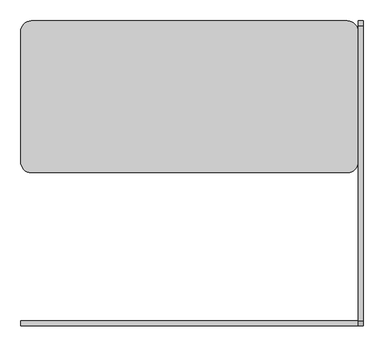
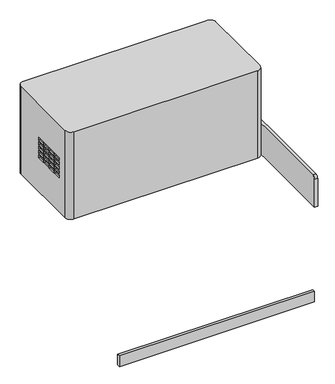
"""IFC4 building model written with IfcOpenShell, lengths in millimetres: proxy geometry, M3150 - Distribution System, Medication, Automatic : M3150 - Distribution System, Medication, Automatic."""

from ifc_helpers import new_model, si_unit, point, frame, frame_2d, origin, place, context, project, spatial, polyline, circle_curve, trimmed, segment, composite_curve, outline, extrude, source, transform, mapped, element, save
from ifc_brep_helpers import plane_surface, cylinder_surface, advanced_brep


def specialty_equipment_78158b01(model_context):
    return source(origin(), model_context, "Body", "SolidModel", [
        advanced_brep(
        [(381.0005698, 367.8671646, 1447.8), (-381.0, 367.8671646, 1447.8), (-406.4, 342.4671646, 1447.8), (-406.4, 27.2138304, 1447.8), (-381.0, 1.8138304, 1447.8), (381.0005698, 1.8138304, 1447.8), (406.4005698, 27.2138304, 1447.8), (406.4005698, 342.4671646, 1447.8), (381.0005698, 367.8671646, 1063.6005557), (406.4005698, 342.4671646, 1063.6005557), (406.4005698, 27.2138304, 1063.6005557), (381.0005698, 1.8138304, 1063.6005557), (-381.0, 1.8138304, 1063.6005557), (-406.4, 27.2138304, 1063.6005557), (-406.4, 342.4671646, 1063.6005557), (-381.0, 367.8671646, 1063.6005557), (-406.4, 99.4213832, 1302.7417631), (-406.4, 67.6713832, 1302.7417631), (-406.4, 67.6713832, 1290.0417631), (-406.4, 99.4213832, 1290.0417631), (-406.4, 99.4213832, 1283.6917631), (-406.4, 67.6713832, 1283.6917631), (-406.4, 67.6713832, 1270.9917631), (-406.4, 99.4213832, 1270.9917631), (-406.4, 137.5213832, 1283.6917631), (-406.4, 105.7713832, 1283.6917631), (-406.4, 105.7713832, 1270.9917631), (-406.4, 137.5213832, 1270.9917631), (-406.4, 175.6213832, 1283.6917631), (-406.4, 143.8713832, 1283.6917631), (-406.4, 143.8713832, 1270.9917631), (-406.4, 175.6213832, 1270.9917631), (-406.4, 213.7213832, 1283.6917631), (-406.4, 181.9713832, 1283.6917631), (-406.4, 181.9713832, 1270.9917631), (-406.4, 213.7213832, 1270.9917631), (-406.4, 137.5213832, 1302.7417631), (-406.4, 105.7713832, 1302.7417631), (-406.4, 105.7713832, 1290.0417631), (-406.4, 137.5213832, 1290.0417631), (-406.4, 175.6213832, 1302.7417631), (-406.4, 143.8713832, 1302.7417631), (-406.4, 143.8713832, 1290.0417631), (-406.4, 175.6213832, 1290.0417631), (-406.4, 213.7213832, 1302.7417631), (-406.4, 181.9713832, 1302.7417631), (-406.4, 181.9713832, 1290.0417631), (-406.4, 213.7213832, 1290.0417631), (-406.4, 99.4213832, 1264.6417631), (-406.4, 67.6713832, 1264.6417631), (-406.4, 67.6713832, 1251.9417631), (-406.4, 99.4213832, 1251.9417631), (-406.4, 99.4213832, 1245.5917631), (-406.4, 67.6713832, 1245.5917631), (-406.4, 67.6713832, 1232.8917631), (-406.4, 99.4213832, 1232.8917631), (-406.4, 137.5213832, 1245.5917631), (-406.4, 105.7713832, 1245.5917631), (-406.4, 105.7713832, 1232.8917631), (-406.4, 137.5213832, 1232.8917631), (-406.4, 175.6213832, 1245.5917631), (-406.4, 143.8713832, 1245.5917631), (-406.4, 143.8713832, 1232.8917631), (-406.4, 175.6213832, 1232.8917631), (-406.4, 213.7213832, 1245.5917631), (-406.4, 181.9713832, 1245.5917631), (-406.4, 181.9713832, 1232.8917631), (-406.4, 213.7213832, 1232.8917631), (-406.4, 137.5213832, 1264.6417631), (-406.4, 105.7713832, 1264.6417631), (-406.4, 105.7713832, 1251.9417631), (-406.4, 137.5213832, 1251.9417631), (-406.4, 175.6213832, 1264.6417631), (-406.4, 143.8713832, 1264.6417631), (-406.4, 143.8713832, 1251.9417631), (-406.4, 175.6213832, 1251.9417631), (-406.4, 213.7213832, 1264.6417631), (-406.4, 181.9713832, 1264.6417631), (-406.4, 181.9713832, 1251.9417631), (-406.4, 213.7213832, 1251.9417631), (-406.4, 99.4213832, 1226.5417631), (-406.4, 67.6713832, 1226.5417631), (-406.4, 67.6713832, 1213.8417631), (-406.4, 99.4213832, 1213.8417631), (-406.4, 137.5213832, 1226.5417631), (-406.4, 105.7713832, 1226.5417631), (-406.4, 105.7713832, 1213.8417631), (-406.4, 137.5213832, 1213.8417631), (-406.4, 175.6213832, 1226.5417631), (-406.4, 143.8713832, 1226.5417631), (-406.4, 143.8713832, 1213.8417631), (-406.4, 175.6213832, 1213.8417631), (-406.4, 213.7213832, 1226.5417631), (-406.4, 181.9713832, 1226.5417631), (-406.4, 181.9713832, 1213.8417631), (-406.4, 213.7213832, 1213.8417631), (406.4005698, 67.6713832, 1302.7417631), (406.4005698, 99.4213832, 1302.7417631), (406.4005698, 99.4213832, 1290.0417631), (406.4005698, 67.6713832, 1290.0417631), (406.4005698, 67.6713832, 1283.6917631), (406.4005698, 99.4213832, 1283.6917631), (406.4005698, 99.4213832, 1270.9917631), (406.4005698, 67.6713832, 1270.9917631), (406.4005698, 105.7713832, 1283.6917631), (406.4005698, 137.5213832, 1283.6917631), (406.4005698, 137.5213832, 1270.9917631), (406.4005698, 105.7713832, 1270.9917631), (406.4005698, 143.8713832, 1283.6917631), (406.4005698, 175.6213832, 1283.6917631), (406.4005698, 175.6213832, 1270.9917631), (406.4005698, 143.8713832, 1270.9917631), (406.4005698, 181.9713832, 1283.6917631), (406.4005698, 213.7213832, 1283.6917631), (406.4005698, 213.7213832, 1270.9917631), (406.4005698, 181.9713832, 1270.9917631), (406.4005698, 105.7713832, 1302.7417631), (406.4005698, 137.5213832, 1302.7417631), (406.4005698, 137.5213832, 1290.0417631), (406.4005698, 105.7713832, 1290.0417631), (406.4005698, 143.8713832, 1302.7417631), (406.4005698, 175.6213832, 1302.7417631), (406.4005698, 175.6213832, 1290.0417631), (406.4005698, 143.8713832, 1290.0417631), (406.4005698, 181.9713832, 1302.7417631), (406.4005698, 213.7213832, 1302.7417631), (406.4005698, 213.7213832, 1290.0417631), (406.4005698, 181.9713832, 1290.0417631), (406.4005698, 67.6713832, 1264.6417631), (406.4005698, 99.4213832, 1264.6417631), (406.4005698, 99.4213832, 1251.9417631), (406.4005698, 67.6713832, 1251.9417631), (406.4005698, 67.6713832, 1245.5917631), (406.4005698, 99.4213832, 1245.5917631), (406.4005698, 99.4213832, 1232.8917631), (406.4005698, 67.6713832, 1232.8917631), (406.4005698, 105.7713832, 1245.5917631), (406.4005698, 137.5213832, 1245.5917631), (406.4005698, 137.5213832, 1232.8917631), (406.4005698, 105.7713832, 1232.8917631), (406.4005698, 143.8713832, 1245.5917631), (406.4005698, 175.6213832, 1245.5917631), (406.4005698, 175.6213832, 1232.8917631), (406.4005698, 143.8713832, 1232.8917631), (406.4005698, 181.9713832, 1245.5917631), (406.4005698, 213.7213832, 1245.5917631), (406.4005698, 213.7213832, 1232.8917631), (406.4005698, 181.9713832, 1232.8917631), (406.4005698, 105.7713832, 1264.6417631), (406.4005698, 137.5213832, 1264.6417631), (406.4005698, 137.5213832, 1251.9417631), (406.4005698, 105.7713832, 1251.9417631), (406.4005698, 143.8713832, 1264.6417631), (406.4005698, 175.6213832, 1264.6417631), (406.4005698, 175.6213832, 1251.9417631), (406.4005698, 143.8713832, 1251.9417631), (406.4005698, 181.9713832, 1264.6417631), (406.4005698, 213.7213832, 1264.6417631), (406.4005698, 213.7213832, 1251.9417631), (406.4005698, 181.9713832, 1251.9417631), (406.4005698, 67.6713832, 1226.5417631), (406.4005698, 99.4213832, 1226.5417631), (406.4005698, 99.4213832, 1213.8417631), (406.4005698, 67.6713832, 1213.8417631), (406.4005698, 105.7713832, 1226.5417631), (406.4005698, 137.5213832, 1226.5417631), (406.4005698, 137.5213832, 1213.8417631), (406.4005698, 105.7713832, 1213.8417631), (406.4005698, 143.8713832, 1226.5417631), (406.4005698, 175.6213832, 1226.5417631), (406.4005698, 175.6213832, 1213.8417631), (406.4005698, 143.8713832, 1213.8417631), (406.4005698, 181.9713832, 1226.5417631), (406.4005698, 213.7213832, 1226.5417631), (406.4005698, 213.7213832, 1213.8417631), (406.4005698, 181.9713832, 1213.8417631), (401.1254699, 99.4213832, 1302.7417631), (401.1254699, 67.6713832, 1302.7417631), (401.1254699, 67.6713832, 1290.0417631), (401.1254699, 99.4213832, 1290.0417631), (401.1254699, 99.4213832, 1283.6917631), (401.1254699, 67.6713832, 1283.6917631), (401.1254699, 67.6713832, 1270.9917631), (401.1254699, 99.4213832, 1270.9917631), (401.1254699, 137.5213832, 1283.6917631), (401.1254699, 105.7713832, 1283.6917631), (401.1254699, 105.7713832, 1270.9917631), (401.1254699, 137.5213832, 1270.9917631), (401.1254699, 175.6213832, 1283.6917631), (401.1254699, 143.8713832, 1283.6917631), (401.1254699, 143.8713832, 1270.9917631), (401.1254699, 175.6213832, 1270.9917631), (401.1254699, 213.7213832, 1283.6917631), (401.1254699, 181.9713832, 1283.6917631), (401.1254699, 181.9713832, 1270.9917631), (401.1254699, 213.7213832, 1270.9917631), (401.1254699, 137.5213832, 1302.7417631), (401.1254699, 105.7713832, 1302.7417631), (401.1254699, 105.7713832, 1290.0417631), (401.1254699, 137.5213832, 1290.0417631), (401.1254699, 175.6213832, 1302.7417631), (401.1254699, 143.8713832, 1302.7417631), (401.1254699, 143.8713832, 1290.0417631), (401.1254699, 175.6213832, 1290.0417631), (401.1254699, 213.7213832, 1302.7417631), (401.1254699, 181.9713832, 1302.7417631), (401.1254699, 181.9713832, 1290.0417631), (401.1254699, 213.7213832, 1290.0417631), (401.1254699, 99.4213832, 1264.6417631), (401.1254699, 67.6713832, 1264.6417631), (401.1254699, 67.6713832, 1251.9417631), (401.1254699, 99.4213832, 1251.9417631), (401.1254699, 99.4213832, 1245.5917631), (401.1254699, 67.6713832, 1245.5917631), (401.1254699, 67.6713832, 1232.8917631), (401.1254699, 99.4213832, 1232.8917631), (401.1254699, 137.5213832, 1245.5917631), (401.1254699, 105.7713832, 1245.5917631), (401.1254699, 105.7713832, 1232.8917631), (401.1254699, 137.5213832, 1232.8917631), (401.1254699, 175.6213832, 1245.5917631), (401.1254699, 143.8713832, 1245.5917631), (401.1254699, 143.8713832, 1232.8917631), (401.1254699, 175.6213832, 1232.8917631), (401.1254699, 213.7213832, 1245.5917631), (401.1254699, 181.9713832, 1245.5917631), (401.1254699, 181.9713832, 1232.8917631), (401.1254699, 213.7213832, 1232.8917631), (401.1254699, 137.5213832, 1264.6417631), (401.1254699, 105.7713832, 1264.6417631), (401.1254699, 105.7713832, 1251.9417631), (401.1254699, 137.5213832, 1251.9417631), (401.1254699, 175.6213832, 1264.6417631), (401.1254699, 143.8713832, 1264.6417631), (401.1254699, 143.8713832, 1251.9417631), (401.1254699, 175.6213832, 1251.9417631), (401.1254699, 213.7213832, 1264.6417631), (401.1254699, 181.9713832, 1264.6417631), (401.1254699, 181.9713832, 1251.9417631), (401.1254699, 213.7213832, 1251.9417631), (401.1254699, 99.4213832, 1226.5417631), (401.1254699, 67.6713832, 1226.5417631), (401.1254699, 67.6713832, 1213.8417631), (401.1254699, 99.4213832, 1213.8417631), (401.1254699, 137.5213832, 1226.5417631), (401.1254699, 105.7713832, 1226.5417631), (401.1254699, 105.7713832, 1213.8417631), (401.1254699, 137.5213832, 1213.8417631), (401.1254699, 175.6213832, 1226.5417631), (401.1254699, 143.8713832, 1226.5417631), (401.1254699, 143.8713832, 1213.8417631), (401.1254699, 175.6213832, 1213.8417631), (401.1254699, 213.7213832, 1226.5417631), (401.1254699, 181.9713832, 1226.5417631), (401.1254699, 181.9713832, 1213.8417631), (401.1254699, 213.7213832, 1213.8417631), (-401.1249392, 99.4213832, 1302.7417631), (-401.1249392, 99.4213832, 1290.0417631), (-401.1249392, 67.6713832, 1290.0417631), (-401.1249392, 67.6713832, 1302.7417631), (-401.1249392, 99.4213832, 1283.6917631), (-401.1249392, 99.4213832, 1270.9917631), (-401.1249392, 67.6713832, 1270.9917631), (-401.1249392, 67.6713832, 1283.6917631), (-401.1249392, 137.5213832, 1283.6917631), (-401.1249392, 137.5213832, 1270.9917631), (-401.1249392, 105.7713832, 1270.9917631), (-401.1249392, 105.7713832, 1283.6917631), (-401.1249392, 175.6213832, 1283.6917631), (-401.1249392, 175.6213832, 1270.9917631), (-401.1249392, 143.8713832, 1270.9917631), (-401.1249392, 143.8713832, 1283.6917631), (-401.1249392, 213.7213832, 1283.6917631), (-401.1249392, 213.7213832, 1270.9917631), (-401.1249392, 181.9713832, 1270.9917631), (-401.1249392, 181.9713832, 1283.6917631), (-401.1249392, 137.5213832, 1302.7417631), (-401.1249392, 137.5213832, 1290.0417631), (-401.1249392, 105.7713832, 1290.0417631), (-401.1249392, 105.7713832, 1302.7417631), (-401.1249392, 175.6213832, 1302.7417631), (-401.1249392, 175.6213832, 1290.0417631), (-401.1249392, 143.8713832, 1290.0417631), (-401.1249392, 143.8713832, 1302.7417631), (-401.1249392, 213.7213832, 1302.7417631), (-401.1249392, 213.7213832, 1290.0417631), (-401.1249392, 181.9713832, 1290.0417631), (-401.1249392, 181.9713832, 1302.7417631), (-401.1249392, 99.4213832, 1264.6417631), (-401.1249392, 99.4213832, 1251.9417631), (-401.1249392, 67.6713832, 1251.9417631), (-401.1249392, 67.6713832, 1264.6417631), (-401.1249392, 99.4213832, 1245.5917631), (-401.1249392, 99.4213832, 1232.8917631), (-401.1249392, 67.6713832, 1232.8917631), (-401.1249392, 67.6713832, 1245.5917631), (-401.1249392, 137.5213832, 1245.5917631), (-401.1249392, 137.5213832, 1232.8917631), (-401.1249392, 105.7713832, 1232.8917631), (-401.1249392, 105.7713832, 1245.5917631), (-401.1249392, 175.6213832, 1245.5917631), (-401.1249392, 175.6213832, 1232.8917631), (-401.1249392, 143.8713832, 1232.8917631), (-401.1249392, 143.8713832, 1245.5917631), (-401.1249392, 213.7213832, 1245.5917631), (-401.1249392, 213.7213832, 1232.8917631), (-401.1249392, 181.9713832, 1232.8917631), (-401.1249392, 181.9713832, 1245.5917631), (-401.1249392, 137.5213832, 1264.6417631), (-401.1249392, 137.5213832, 1251.9417631), (-401.1249392, 105.7713832, 1251.9417631), (-401.1249392, 105.7713832, 1264.6417631), (-401.1249392, 175.6213832, 1264.6417631), (-401.1249392, 175.6213832, 1251.9417631), (-401.1249392, 143.8713832, 1251.9417631), (-401.1249392, 143.8713832, 1264.6417631), (-401.1249392, 213.7213832, 1264.6417631), (-401.1249392, 213.7213832, 1251.9417631), (-401.1249392, 181.9713832, 1251.9417631), (-401.1249392, 181.9713832, 1264.6417631), (-401.1249392, 99.4213832, 1226.5417631), (-401.1249392, 99.4213832, 1213.8417631), (-401.1249392, 67.6713832, 1213.8417631), (-401.1249392, 67.6713832, 1226.5417631), (-401.1249392, 137.5213832, 1226.5417631), (-401.1249392, 137.5213832, 1213.8417631), (-401.1249392, 105.7713832, 1213.8417631), (-401.1249392, 105.7713832, 1226.5417631), (-401.1249392, 175.6213832, 1226.5417631), (-401.1249392, 175.6213832, 1213.8417631), (-401.1249392, 143.8713832, 1213.8417631), (-401.1249392, 143.8713832, 1226.5417631), (-401.1249392, 213.7213832, 1226.5417631), (-401.1249392, 213.7213832, 1213.8417631), (-401.1249392, 181.9713832, 1213.8417631), (-401.1249392, 181.9713832, 1226.5417631)],
        [
            (0, 1),
            (1, 2, circle_curve(frame((-381.0, 342.4671646, 1447.8), z_axis=(0.0, 0.0, 1.0), x_axis=(1.0, 0.0, 0.0)), 25.4)),
            (2, 3),
            (3, 4, circle_curve(frame((-381.0, 27.2138304, 1447.8), z_axis=(0.0, 0.0, 1.0), x_axis=(1.0, 0.0, 0.0)), 25.4)),
            (4, 5),
            (5, 6, circle_curve(frame((381.0005698, 27.2138304, 1447.8), z_axis=(0.0, 0.0, 1.0), x_axis=(1.0, 0.0, 0.0)), 25.4)),
            (6, 7),
            (7, 0, circle_curve(frame((381.0005698, 342.4671646, 1447.8), z_axis=(0.0, 0.0, 1.0), x_axis=(1.0, 0.0, 0.0)), 25.4)),
            (8, 9, circle_curve(frame((381.0005698, 342.4671646, 1063.6005557), z_axis=(0.0, 0.0, -1.0), x_axis=(1.0, 0.0, 0.0)), 25.4)),
            (9, 10),
            (10, 11, circle_curve(frame((381.0005698, 27.2138304, 1063.6005557), z_axis=(0.0, 0.0, -1.0), x_axis=(1.0, 0.0, 0.0)), 25.4)),
            (11, 12),
            (12, 13, circle_curve(frame((-381.0, 27.2138304, 1063.6005557), z_axis=(0.0, 0.0, -1.0), x_axis=(1.0, 0.0, 0.0)), 25.4)),
            (13, 14),
            (14, 15, circle_curve(frame((-381.0, 342.4671646, 1063.6005557), z_axis=(0.0, 0.0, -1.0), x_axis=(1.0, 0.0, 0.0)), 25.4)),
            (15, 8),
            (0, 8),
            (15, 1),
            (2, 14),
            (13, 3),
            (16, 17),
            (17, 18),
            (18, 19),
            (19, 16),
            (20, 21),
            (21, 22),
            (22, 23),
            (23, 20),
            (24, 25),
            (25, 26),
            (26, 27),
            (27, 24),
            (28, 29),
            (29, 30),
            (30, 31),
            (31, 28),
            (32, 33),
            (33, 34),
            (34, 35),
            (35, 32),
            (36, 37),
            (37, 38),
            (38, 39),
            (39, 36),
            (40, 41),
            (41, 42),
            (42, 43),
            (43, 40),
            (44, 45),
            (45, 46),
            (46, 47),
            (47, 44),
            (48, 49),
            (49, 50),
            (50, 51),
            (51, 48),
            (52, 53),
            (53, 54),
            (54, 55),
            (55, 52),
            (56, 57),
            (57, 58),
            (58, 59),
            (59, 56),
            (60, 61),
            (61, 62),
            (62, 63),
            (63, 60),
            (64, 65),
            (65, 66),
            (66, 67),
            (67, 64),
            (68, 69),
            (69, 70),
            (70, 71),
            (71, 68),
            (72, 73),
            (73, 74),
            (74, 75),
            (75, 72),
            (76, 77),
            (77, 78),
            (78, 79),
            (79, 76),
            (80, 81),
            (81, 82),
            (82, 83),
            (83, 80),
            (84, 85),
            (85, 86),
            (86, 87),
            (87, 84),
            (88, 89),
            (89, 90),
            (90, 91),
            (91, 88),
            (92, 93),
            (93, 94),
            (94, 95),
            (95, 92),
            (4, 12),
            (11, 5),
            (6, 10),
            (9, 7),
            (96, 97),
            (97, 98),
            (98, 99),
            (99, 96),
            (100, 101),
            (101, 102),
            (102, 103),
            (103, 100),
            (104, 105),
            (105, 106),
            (106, 107),
            (107, 104),
            (108, 109),
            (109, 110),
            (110, 111),
            (111, 108),
            (112, 113),
            (113, 114),
            (114, 115),
            (115, 112),
            (116, 117),
            (117, 118),
            (118, 119),
            (119, 116),
            (120, 121),
            (121, 122),
            (122, 123),
            (123, 120),
            (124, 125),
            (125, 126),
            (126, 127),
            (127, 124),
            (128, 129),
            (129, 130),
            (130, 131),
            (131, 128),
            (132, 133),
            (133, 134),
            (134, 135),
            (135, 132),
            (136, 137),
            (137, 138),
            (138, 139),
            (139, 136),
            (140, 141),
            (141, 142),
            (142, 143),
            (143, 140),
            (144, 145),
            (145, 146),
            (146, 147),
            (147, 144),
            (148, 149),
            (149, 150),
            (150, 151),
            (151, 148),
            (152, 153),
            (153, 154),
            (154, 155),
            (155, 152),
            (156, 157),
            (157, 158),
            (158, 159),
            (159, 156),
            (160, 161),
            (161, 162),
            (162, 163),
            (163, 160),
            (164, 165),
            (165, 166),
            (166, 167),
            (167, 164),
            (168, 169),
            (169, 170),
            (170, 171),
            (171, 168),
            (172, 173),
            (173, 174),
            (174, 175),
            (175, 172),
            (176, 177),
            (177, 178),
            (178, 179),
            (179, 176),
            (180, 181),
            (181, 182),
            (182, 183),
            (183, 180),
            (184, 185),
            (185, 186),
            (186, 187),
            (187, 184),
            (188, 189),
            (189, 190),
            (190, 191),
            (191, 188),
            (192, 193),
            (193, 194),
            (194, 195),
            (195, 192),
            (196, 197),
            (197, 198),
            (198, 199),
            (199, 196),
            (200, 201),
            (201, 202),
            (202, 203),
            (203, 200),
            (204, 205),
            (205, 206),
            (206, 207),
            (207, 204),
            (208, 209),
            (209, 210),
            (210, 211),
            (211, 208),
            (212, 213),
            (213, 214),
            (214, 215),
            (215, 212),
            (216, 217),
            (217, 218),
            (218, 219),
            (219, 216),
            (220, 221),
            (221, 222),
            (222, 223),
            (223, 220),
            (224, 225),
            (225, 226),
            (226, 227),
            (227, 224),
            (228, 229),
            (229, 230),
            (230, 231),
            (231, 228),
            (232, 233),
            (233, 234),
            (234, 235),
            (235, 232),
            (236, 237),
            (237, 238),
            (238, 239),
            (239, 236),
            (240, 241),
            (241, 242),
            (242, 243),
            (243, 240),
            (244, 245),
            (245, 246),
            (246, 247),
            (247, 244),
            (248, 249),
            (249, 250),
            (250, 251),
            (251, 248),
            (252, 253),
            (253, 254),
            (254, 255),
            (255, 252),
            (176, 97),
            (96, 177),
            (99, 178),
            (98, 179),
            (180, 101),
            (100, 181),
            (103, 182),
            (102, 183),
            (184, 105),
            (104, 185),
            (107, 186),
            (106, 187),
            (188, 109),
            (108, 189),
            (111, 190),
            (110, 191),
            (192, 113),
            (112, 193),
            (115, 194),
            (114, 195),
            (196, 117),
            (116, 197),
            (119, 198),
            (118, 199),
            (200, 121),
            (120, 201),
            (123, 202),
            (122, 203),
            (204, 125),
            (124, 205),
            (127, 206),
            (126, 207),
            (208, 129),
            (128, 209),
            (131, 210),
            (130, 211),
            (212, 133),
            (132, 213),
            (135, 214),
            (134, 215),
            (216, 137),
            (136, 217),
            (139, 218),
            (138, 219),
            (220, 141),
            (140, 221),
            (143, 222),
            (142, 223),
            (224, 145),
            (144, 225),
            (147, 226),
            (146, 227),
            (228, 149),
            (148, 229),
            (151, 230),
            (150, 231),
            (232, 153),
            (152, 233),
            (155, 234),
            (154, 235),
            (236, 157),
            (156, 237),
            (159, 238),
            (158, 239),
            (240, 161),
            (160, 241),
            (163, 242),
            (162, 243),
            (244, 165),
            (164, 245),
            (167, 246),
            (166, 247),
            (248, 169),
            (168, 249),
            (171, 250),
            (170, 251),
            (252, 173),
            (172, 253),
            (175, 254),
            (174, 255),
            (256, 257),
            (257, 258),
            (258, 259),
            (259, 256),
            (260, 261),
            (261, 262),
            (262, 263),
            (263, 260),
            (264, 265),
            (265, 266),
            (266, 267),
            (267, 264),
            (268, 269),
            (269, 270),
            (270, 271),
            (271, 268),
            (272, 273),
            (273, 274),
            (274, 275),
            (275, 272),
            (276, 277),
            (277, 278),
            (278, 279),
            (279, 276),
            (280, 281),
            (281, 282),
            (282, 283),
            (283, 280),
            (284, 285),
            (285, 286),
            (286, 287),
            (287, 284),
            (288, 289),
            (289, 290),
            (290, 291),
            (291, 288),
            (292, 293),
            (293, 294),
            (294, 295),
            (295, 292),
            (296, 297),
            (297, 298),
            (298, 299),
            (299, 296),
            (300, 301),
            (301, 302),
            (302, 303),
            (303, 300),
            (304, 305),
            (305, 306),
            (306, 307),
            (307, 304),
            (308, 309),
            (309, 310),
            (310, 311),
            (311, 308),
            (312, 313),
            (313, 314),
            (314, 315),
            (315, 312),
            (316, 317),
            (317, 318),
            (318, 319),
            (319, 316),
            (320, 321),
            (321, 322),
            (322, 323),
            (323, 320),
            (324, 325),
            (325, 326),
            (326, 327),
            (327, 324),
            (328, 329),
            (329, 330),
            (330, 331),
            (331, 328),
            (332, 333),
            (333, 334),
            (334, 335),
            (335, 332),
            (259, 17),
            (16, 256),
            (258, 18),
            (257, 19),
            (263, 21),
            (20, 260),
            (262, 22),
            (261, 23),
            (267, 25),
            (24, 264),
            (266, 26),
            (265, 27),
            (271, 29),
            (28, 268),
            (270, 30),
            (269, 31),
            (275, 33),
            (32, 272),
            (274, 34),
            (273, 35),
            (279, 37),
            (36, 276),
            (278, 38),
            (277, 39),
            (283, 41),
            (40, 280),
            (282, 42),
            (281, 43),
            (287, 45),
            (44, 284),
            (286, 46),
            (285, 47),
            (291, 49),
            (48, 288),
            (290, 50),
            (289, 51),
            (295, 53),
            (52, 292),
            (294, 54),
            (293, 55),
            (299, 57),
            (56, 296),
            (298, 58),
            (297, 59),
            (303, 61),
            (60, 300),
            (302, 62),
            (301, 63),
            (307, 65),
            (64, 304),
            (306, 66),
            (305, 67),
            (311, 69),
            (68, 308),
            (310, 70),
            (309, 71),
            (315, 73),
            (72, 312),
            (314, 74),
            (313, 75),
            (319, 77),
            (76, 316),
            (318, 78),
            (317, 79),
            (323, 81),
            (80, 320),
            (322, 82),
            (321, 83),
            (327, 85),
            (84, 324),
            (326, 86),
            (325, 87),
            (331, 89),
            (88, 328),
            (330, 90),
            (329, 91),
            (335, 93),
            (92, 332),
            (334, 94),
            (333, 95),
        ],
        [
            plane_surface(frame((-419.1, 367.8671646, 1447.8), z_axis=(0.0, 0.0, 1.0), x_axis=(-1.0, 0.0, 0.0))),
            plane_surface(frame((-419.1, 367.8671646, 1063.6005557), z_axis=(0.0, 0.0, -1.0), x_axis=(1.0, 0.0, 0.0))),
            plane_surface(frame((381.0005698, 367.8671646, 1447.8), z_axis=(0.0, 1.0, 0.0), x_axis=(0.0, 0.0, -1.0))),
            plane_surface(frame((-406.4, 342.4671646, 1447.8), z_axis=(-1.0, 0.0, 0.0), x_axis=(0.0, 0.0, -1.0))),
            plane_surface(frame((-381.0, 1.8138304, 1447.8), z_axis=(0.0, -1.0, 0.0), x_axis=(0.0, 0.0, -1.0))),
            plane_surface(frame((406.4005698, 27.2138304, 1447.8), z_axis=(1.0, 0.0, 0.0), x_axis=(0.0, 0.0, -1.0))),
            cylinder_surface(frame((-381.0, 342.4671646, 1063.6005557), z_axis=(0.0, 0.0, 1.0), x_axis=(1.0, 0.0, 0.0)), 25.4),
            cylinder_surface(frame((-381.0, 27.2138304, 1063.6005557), z_axis=(0.0, 0.0, 1.0), x_axis=(1.0, 0.0, 0.0)), 25.4),
            cylinder_surface(frame((381.0005698, 27.2138304, 1063.6005557), z_axis=(0.0, 0.0, 1.0), x_axis=(1.0, 0.0, 0.0)), 25.4),
            cylinder_surface(frame((381.0005698, 342.4671646, 1063.6005557), z_axis=(0.0, 0.0, 1.0), x_axis=(1.0, 0.0, 0.0)), 25.4),
            plane_surface(frame((401.1254699, 67.6713832, 1302.7417631), z_axis=(1.0, 0.0, 0.0), x_axis=(0.0, 1.0, 0.0))),
            plane_surface(frame((412.0928568, 99.4213832, 1302.7417631), z_axis=(0.0, 0.0, -1.0), x_axis=(-1.0, 0.0, 0.0))),
            plane_surface(frame((412.0928568, 67.6713832, 1302.7417631), z_axis=(0.0, 1.0, 0.0), x_axis=(-1.0, 0.0, 0.0))),
            plane_surface(frame((412.0928568, 67.6713832, 1290.0417631), z_axis=(0.0, 0.0, 1.0), x_axis=(-1.0, 0.0, 0.0))),
            plane_surface(frame((412.0928568, 99.4213832, 1290.0417631), z_axis=(0.0, -1.0, 0.0), x_axis=(-1.0, 0.0, 0.0))),
            plane_surface(frame((412.0928568, 99.4213832, 1283.6917631), z_axis=(0.0, 0.0, -1.0), x_axis=(-1.0, 0.0, 0.0))),
            plane_surface(frame((412.0928568, 67.6713832, 1283.6917631), z_axis=(0.0, 1.0, 0.0), x_axis=(-1.0, 0.0, 0.0))),
            plane_surface(frame((412.0928568, 67.6713832, 1270.9917631), z_axis=(0.0, 0.0, 1.0), x_axis=(-1.0, 0.0, 0.0))),
            plane_surface(frame((412.0928568, 99.4213832, 1270.9917631), z_axis=(0.0, -1.0, 0.0), x_axis=(-1.0, 0.0, 0.0))),
            plane_surface(frame((412.0928568, 137.5213832, 1283.6917631), z_axis=(0.0, 0.0, -1.0), x_axis=(-1.0, 0.0, 0.0))),
            plane_surface(frame((412.0928568, 105.7713832, 1283.6917631), z_axis=(0.0, 1.0, 0.0), x_axis=(-1.0, 0.0, 0.0))),
            plane_surface(frame((412.0928568, 105.7713832, 1270.9917631), z_axis=(0.0, 0.0, 1.0), x_axis=(-1.0, 0.0, 0.0))),
            plane_surface(frame((412.0928568, 137.5213832, 1270.9917631), z_axis=(0.0, -1.0, 0.0), x_axis=(-1.0, 0.0, 0.0))),
            plane_surface(frame((412.0928568, 175.6213832, 1283.6917631), z_axis=(0.0, 0.0, -1.0), x_axis=(-1.0, 0.0, 0.0))),
            plane_surface(frame((412.0928568, 143.8713832, 1283.6917631), z_axis=(0.0, 1.0, 0.0), x_axis=(-1.0, 0.0, 0.0))),
            plane_surface(frame((412.0928568, 143.8713832, 1270.9917631), z_axis=(0.0, 0.0, 1.0), x_axis=(-1.0, 0.0, 0.0))),
            plane_surface(frame((412.0928568, 175.6213832, 1270.9917631), z_axis=(0.0, -1.0, 0.0), x_axis=(-1.0, 0.0, 0.0))),
            plane_surface(frame((412.0928568, 213.7213832, 1283.6917631), z_axis=(0.0, 0.0, -1.0), x_axis=(-1.0, 0.0, 0.0))),
            plane_surface(frame((412.0928568, 181.9713832, 1283.6917631), z_axis=(0.0, 1.0, 0.0), x_axis=(-1.0, 0.0, 0.0))),
            plane_surface(frame((412.0928568, 181.9713832, 1270.9917631), z_axis=(0.0, 0.0, 1.0), x_axis=(-1.0, 0.0, 0.0))),
            plane_surface(frame((412.0928568, 213.7213832, 1270.9917631), z_axis=(0.0, -1.0, 0.0), x_axis=(-1.0, 0.0, 0.0))),
            plane_surface(frame((412.0928568, 137.5213832, 1302.7417631), z_axis=(0.0, 0.0, -1.0), x_axis=(-1.0, 0.0, 0.0))),
            plane_surface(frame((412.0928568, 105.7713832, 1302.7417631), z_axis=(0.0, 1.0, 0.0), x_axis=(-1.0, 0.0, 0.0))),
            plane_surface(frame((412.0928568, 105.7713832, 1290.0417631), z_axis=(0.0, 0.0, 1.0), x_axis=(-1.0, 0.0, 0.0))),
            plane_surface(frame((412.0928568, 137.5213832, 1290.0417631), z_axis=(0.0, -1.0, 0.0), x_axis=(-1.0, 0.0, 0.0))),
            plane_surface(frame((412.0928568, 175.6213832, 1302.7417631), z_axis=(0.0, 0.0, -1.0), x_axis=(-1.0, 0.0, 0.0))),
            plane_surface(frame((412.0928568, 143.8713832, 1302.7417631), z_axis=(0.0, 1.0, 0.0), x_axis=(-1.0, 0.0, 0.0))),
            plane_surface(frame((412.0928568, 143.8713832, 1290.0417631), z_axis=(0.0, 0.0, 1.0), x_axis=(-1.0, 0.0, 0.0))),
            plane_surface(frame((412.0928568, 175.6213832, 1290.0417631), z_axis=(0.0, -1.0, 0.0), x_axis=(-1.0, 0.0, 0.0))),
            plane_surface(frame((412.0928568, 213.7213832, 1302.7417631), z_axis=(0.0, 0.0, -1.0), x_axis=(-1.0, 0.0, 0.0))),
            plane_surface(frame((412.0928568, 181.9713832, 1302.7417631), z_axis=(0.0, 1.0, 0.0), x_axis=(-1.0, 0.0, 0.0))),
            plane_surface(frame((412.0928568, 181.9713832, 1290.0417631), z_axis=(0.0, 0.0, 1.0), x_axis=(-1.0, 0.0, 0.0))),
            plane_surface(frame((412.0928568, 213.7213832, 1290.0417631), z_axis=(0.0, -1.0, 0.0), x_axis=(-1.0, 0.0, 0.0))),
            plane_surface(frame((412.0928568, 99.4213832, 1264.6417631), z_axis=(0.0, 0.0, -1.0), x_axis=(-1.0, 0.0, 0.0))),
            plane_surface(frame((412.0928568, 67.6713832, 1264.6417631), z_axis=(0.0, 1.0, 0.0), x_axis=(-1.0, 0.0, 0.0))),
            plane_surface(frame((412.0928568, 67.6713832, 1251.9417631), z_axis=(0.0, 0.0, 1.0), x_axis=(-1.0, 0.0, 0.0))),
            plane_surface(frame((412.0928568, 99.4213832, 1251.9417631), z_axis=(0.0, -1.0, 0.0), x_axis=(-1.0, 0.0, 0.0))),
            plane_surface(frame((412.0928568, 99.4213832, 1245.5917631), z_axis=(0.0, 0.0, -1.0), x_axis=(-1.0, 0.0, 0.0))),
            plane_surface(frame((412.0928568, 67.6713832, 1245.5917631), z_axis=(0.0, 1.0, 0.0), x_axis=(-1.0, 0.0, 0.0))),
            plane_surface(frame((412.0928568, 67.6713832, 1232.8917631), z_axis=(0.0, 0.0, 1.0), x_axis=(-1.0, 0.0, 0.0))),
            plane_surface(frame((412.0928568, 99.4213832, 1232.8917631), z_axis=(0.0, -1.0, 0.0), x_axis=(-1.0, 0.0, 0.0))),
            plane_surface(frame((412.0928568, 137.5213832, 1245.5917631), z_axis=(0.0, 0.0, -1.0), x_axis=(-1.0, 0.0, 0.0))),
            plane_surface(frame((412.0928568, 105.7713832, 1245.5917631), z_axis=(0.0, 1.0, 0.0), x_axis=(-1.0, 0.0, 0.0))),
            plane_surface(frame((412.0928568, 105.7713832, 1232.8917631), z_axis=(0.0, 0.0, 1.0), x_axis=(-1.0, 0.0, 0.0))),
            plane_surface(frame((412.0928568, 137.5213832, 1232.8917631), z_axis=(0.0, -1.0, 0.0), x_axis=(-1.0, 0.0, 0.0))),
            plane_surface(frame((412.0928568, 175.6213832, 1245.5917631), z_axis=(0.0, 0.0, -1.0), x_axis=(-1.0, 0.0, 0.0))),
            plane_surface(frame((412.0928568, 143.8713832, 1245.5917631), z_axis=(0.0, 1.0, 0.0), x_axis=(-1.0, 0.0, 0.0))),
            plane_surface(frame((412.0928568, 143.8713832, 1232.8917631), z_axis=(0.0, 0.0, 1.0), x_axis=(-1.0, 0.0, 0.0))),
            plane_surface(frame((412.0928568, 175.6213832, 1232.8917631), z_axis=(0.0, -1.0, 0.0), x_axis=(-1.0, 0.0, 0.0))),
            plane_surface(frame((412.0928568, 213.7213832, 1245.5917631), z_axis=(0.0, 0.0, -1.0), x_axis=(-1.0, 0.0, 0.0))),
            plane_surface(frame((412.0928568, 181.9713832, 1245.5917631), z_axis=(0.0, 1.0, 0.0), x_axis=(-1.0, 0.0, 0.0))),
            plane_surface(frame((412.0928568, 181.9713832, 1232.8917631), z_axis=(0.0, 0.0, 1.0), x_axis=(-1.0, 0.0, 0.0))),
            plane_surface(frame((412.0928568, 213.7213832, 1232.8917631), z_axis=(0.0, -1.0, 0.0), x_axis=(-1.0, 0.0, 0.0))),
            plane_surface(frame((412.0928568, 137.5213832, 1264.6417631), z_axis=(0.0, 0.0, -1.0), x_axis=(-1.0, 0.0, 0.0))),
            plane_surface(frame((412.0928568, 105.7713832, 1264.6417631), z_axis=(0.0, 1.0, 0.0), x_axis=(-1.0, 0.0, 0.0))),
            plane_surface(frame((412.0928568, 105.7713832, 1251.9417631), z_axis=(0.0, 0.0, 1.0), x_axis=(-1.0, 0.0, 0.0))),
            plane_surface(frame((412.0928568, 137.5213832, 1251.9417631), z_axis=(0.0, -1.0, 0.0), x_axis=(-1.0, 0.0, 0.0))),
            plane_surface(frame((412.0928568, 175.6213832, 1264.6417631), z_axis=(0.0, 0.0, -1.0), x_axis=(-1.0, 0.0, 0.0))),
            plane_surface(frame((412.0928568, 143.8713832, 1264.6417631), z_axis=(0.0, 1.0, 0.0), x_axis=(-1.0, 0.0, 0.0))),
            plane_surface(frame((412.0928568, 143.8713832, 1251.9417631), z_axis=(0.0, 0.0, 1.0), x_axis=(-1.0, 0.0, 0.0))),
            plane_surface(frame((412.0928568, 175.6213832, 1251.9417631), z_axis=(0.0, -1.0, 0.0), x_axis=(-1.0, 0.0, 0.0))),
            plane_surface(frame((412.0928568, 213.7213832, 1264.6417631), z_axis=(0.0, 0.0, -1.0), x_axis=(-1.0, 0.0, 0.0))),
            plane_surface(frame((412.0928568, 181.9713832, 1264.6417631), z_axis=(0.0, 1.0, 0.0), x_axis=(-1.0, 0.0, 0.0))),
            plane_surface(frame((412.0928568, 181.9713832, 1251.9417631), z_axis=(0.0, 0.0, 1.0), x_axis=(-1.0, 0.0, 0.0))),
            plane_surface(frame((412.0928568, 213.7213832, 1251.9417631), z_axis=(0.0, -1.0, 0.0), x_axis=(-1.0, 0.0, 0.0))),
            plane_surface(frame((412.0928568, 99.4213832, 1226.5417631), z_axis=(0.0, 0.0, -1.0), x_axis=(-1.0, 0.0, 0.0))),
            plane_surface(frame((412.0928568, 67.6713832, 1226.5417631), z_axis=(0.0, 1.0, 0.0), x_axis=(-1.0, 0.0, 0.0))),
            plane_surface(frame((412.0928568, 67.6713832, 1213.8417631), z_axis=(0.0, 0.0, 1.0), x_axis=(-1.0, 0.0, 0.0))),
            plane_surface(frame((412.0928568, 99.4213832, 1213.8417631), z_axis=(0.0, -1.0, 0.0), x_axis=(-1.0, 0.0, 0.0))),
            plane_surface(frame((412.0928568, 137.5213832, 1226.5417631), z_axis=(0.0, 0.0, -1.0), x_axis=(-1.0, 0.0, 0.0))),
            plane_surface(frame((412.0928568, 105.7713832, 1226.5417631), z_axis=(0.0, 1.0, 0.0), x_axis=(-1.0, 0.0, 0.0))),
            plane_surface(frame((412.0928568, 105.7713832, 1213.8417631), z_axis=(0.0, 0.0, 1.0), x_axis=(-1.0, 0.0, 0.0))),
            plane_surface(frame((412.0928568, 137.5213832, 1213.8417631), z_axis=(0.0, -1.0, 0.0), x_axis=(-1.0, 0.0, 0.0))),
            plane_surface(frame((412.0928568, 175.6213832, 1226.5417631), z_axis=(0.0, 0.0, -1.0), x_axis=(-1.0, 0.0, 0.0))),
            plane_surface(frame((412.0928568, 143.8713832, 1226.5417631), z_axis=(0.0, 1.0, 0.0), x_axis=(-1.0, 0.0, 0.0))),
            plane_surface(frame((412.0928568, 143.8713832, 1213.8417631), z_axis=(0.0, 0.0, 1.0), x_axis=(-1.0, 0.0, 0.0))),
            plane_surface(frame((412.0928568, 175.6213832, 1213.8417631), z_axis=(0.0, -1.0, 0.0), x_axis=(-1.0, 0.0, 0.0))),
            plane_surface(frame((412.0928568, 213.7213832, 1226.5417631), z_axis=(0.0, 0.0, -1.0), x_axis=(-1.0, 0.0, 0.0))),
            plane_surface(frame((412.0928568, 181.9713832, 1226.5417631), z_axis=(0.0, 1.0, 0.0), x_axis=(-1.0, 0.0, 0.0))),
            plane_surface(frame((412.0928568, 181.9713832, 1213.8417631), z_axis=(0.0, 0.0, 1.0), x_axis=(-1.0, 0.0, 0.0))),
            plane_surface(frame((412.0928568, 213.7213832, 1213.8417631), z_axis=(0.0, -1.0, 0.0), x_axis=(-1.0, 0.0, 0.0))),
            plane_surface(frame((-401.1249392, 99.4213832, 1283.6917631), z_axis=(-1.0, 0.0, 0.0), x_axis=(0.0, 0.0, 1.0))),
            plane_surface(frame((-412.0923261, 67.6713832, 1302.7417631), z_axis=(0.0, 0.0, -1.0), x_axis=(1.0, 0.0, 0.0))),
            plane_surface(frame((-412.0923261, 67.6713832, 1290.0417631), z_axis=(0.0, 1.0, 0.0), x_axis=(1.0, 0.0, 0.0))),
            plane_surface(frame((-412.0923261, 99.4213832, 1290.0417631), z_axis=(0.0, 0.0, 1.0), x_axis=(1.0, 0.0, 0.0))),
            plane_surface(frame((-412.0923261, 99.4213832, 1302.7417631), z_axis=(0.0, -1.0, 0.0), x_axis=(1.0, 0.0, 0.0))),
            plane_surface(frame((-412.0923261, 67.6713832, 1283.6917631), z_axis=(0.0, 0.0, -1.0), x_axis=(1.0, 0.0, 0.0))),
            plane_surface(frame((-412.0923261, 67.6713832, 1270.9917631), z_axis=(0.0, 1.0, 0.0), x_axis=(1.0, 0.0, 0.0))),
            plane_surface(frame((-412.0923261, 99.4213832, 1270.9917631), z_axis=(0.0, 0.0, 1.0), x_axis=(1.0, 0.0, 0.0))),
            plane_surface(frame((-412.0923261, 99.4213832, 1283.6917631), z_axis=(0.0, -1.0, 0.0), x_axis=(1.0, 0.0, 0.0))),
            plane_surface(frame((-412.0923261, 105.7713832, 1283.6917631), z_axis=(0.0, 0.0, -1.0), x_axis=(1.0, 0.0, 0.0))),
            plane_surface(frame((-412.0923261, 105.7713832, 1270.9917631), z_axis=(0.0, 1.0, 0.0), x_axis=(1.0, 0.0, 0.0))),
            plane_surface(frame((-412.0923261, 137.5213832, 1270.9917631), z_axis=(0.0, 0.0, 1.0), x_axis=(1.0, 0.0, 0.0))),
            plane_surface(frame((-412.0923261, 137.5213832, 1283.6917631), z_axis=(0.0, -1.0, 0.0), x_axis=(1.0, 0.0, 0.0))),
            plane_surface(frame((-412.0923261, 143.8713832, 1283.6917631), z_axis=(0.0, 0.0, -1.0), x_axis=(1.0, 0.0, 0.0))),
            plane_surface(frame((-412.0923261, 143.8713832, 1270.9917631), z_axis=(0.0, 1.0, 0.0), x_axis=(1.0, 0.0, 0.0))),
            plane_surface(frame((-412.0923261, 175.6213832, 1270.9917631), z_axis=(0.0, 0.0, 1.0), x_axis=(1.0, 0.0, 0.0))),
            plane_surface(frame((-412.0923261, 175.6213832, 1283.6917631), z_axis=(0.0, -1.0, 0.0), x_axis=(1.0, 0.0, 0.0))),
            plane_surface(frame((-412.0923261, 181.9713832, 1283.6917631), z_axis=(0.0, 0.0, -1.0), x_axis=(1.0, 0.0, 0.0))),
            plane_surface(frame((-412.0923261, 181.9713832, 1270.9917631), z_axis=(0.0, 1.0, 0.0), x_axis=(1.0, 0.0, 0.0))),
            plane_surface(frame((-412.0923261, 213.7213832, 1270.9917631), z_axis=(0.0, 0.0, 1.0), x_axis=(1.0, 0.0, 0.0))),
            plane_surface(frame((-412.0923261, 213.7213832, 1283.6917631), z_axis=(0.0, -1.0, 0.0), x_axis=(1.0, 0.0, 0.0))),
            plane_surface(frame((-412.0923261, 105.7713832, 1302.7417631), z_axis=(0.0, 0.0, -1.0), x_axis=(1.0, 0.0, 0.0))),
            plane_surface(frame((-412.0923261, 105.7713832, 1290.0417631), z_axis=(0.0, 1.0, 0.0), x_axis=(1.0, 0.0, 0.0))),
            plane_surface(frame((-412.0923261, 137.5213832, 1290.0417631), z_axis=(0.0, 0.0, 1.0), x_axis=(1.0, 0.0, 0.0))),
            plane_surface(frame((-412.0923261, 137.5213832, 1302.7417631), z_axis=(0.0, -1.0, 0.0), x_axis=(1.0, 0.0, 0.0))),
            plane_surface(frame((-412.0923261, 143.8713832, 1302.7417631), z_axis=(0.0, 0.0, -1.0), x_axis=(1.0, 0.0, 0.0))),
            plane_surface(frame((-412.0923261, 143.8713832, 1290.0417631), z_axis=(0.0, 1.0, 0.0), x_axis=(1.0, 0.0, 0.0))),
            plane_surface(frame((-412.0923261, 175.6213832, 1290.0417631), z_axis=(0.0, 0.0, 1.0), x_axis=(1.0, 0.0, 0.0))),
            plane_surface(frame((-412.0923261, 175.6213832, 1302.7417631), z_axis=(0.0, -1.0, 0.0), x_axis=(1.0, 0.0, 0.0))),
            plane_surface(frame((-412.0923261, 181.9713832, 1302.7417631), z_axis=(0.0, 0.0, -1.0), x_axis=(1.0, 0.0, 0.0))),
            plane_surface(frame((-412.0923261, 181.9713832, 1290.0417631), z_axis=(0.0, 1.0, 0.0), x_axis=(1.0, 0.0, 0.0))),
            plane_surface(frame((-412.0923261, 213.7213832, 1290.0417631), z_axis=(0.0, 0.0, 1.0), x_axis=(1.0, 0.0, 0.0))),
            plane_surface(frame((-412.0923261, 213.7213832, 1302.7417631), z_axis=(0.0, -1.0, 0.0), x_axis=(1.0, 0.0, 0.0))),
            plane_surface(frame((-412.0923261, 67.6713832, 1264.6417631), z_axis=(0.0, 0.0, -1.0), x_axis=(1.0, 0.0, 0.0))),
            plane_surface(frame((-412.0923261, 67.6713832, 1251.9417631), z_axis=(0.0, 1.0, 0.0), x_axis=(1.0, 0.0, 0.0))),
            plane_surface(frame((-412.0923261, 99.4213832, 1251.9417631), z_axis=(0.0, 0.0, 1.0), x_axis=(1.0, 0.0, 0.0))),
            plane_surface(frame((-412.0923261, 99.4213832, 1264.6417631), z_axis=(0.0, -1.0, 0.0), x_axis=(1.0, 0.0, 0.0))),
            plane_surface(frame((-412.0923261, 67.6713832, 1245.5917631), z_axis=(0.0, 0.0, -1.0), x_axis=(1.0, 0.0, 0.0))),
            plane_surface(frame((-412.0923261, 67.6713832, 1232.8917631), z_axis=(0.0, 1.0, 0.0), x_axis=(1.0, 0.0, 0.0))),
            plane_surface(frame((-412.0923261, 99.4213832, 1232.8917631), z_axis=(0.0, 0.0, 1.0), x_axis=(1.0, 0.0, 0.0))),
            plane_surface(frame((-412.0923261, 99.4213832, 1245.5917631), z_axis=(0.0, -1.0, 0.0), x_axis=(1.0, 0.0, 0.0))),
            plane_surface(frame((-412.0923261, 105.7713832, 1245.5917631), z_axis=(0.0, 0.0, -1.0), x_axis=(1.0, 0.0, 0.0))),
            plane_surface(frame((-412.0923261, 105.7713832, 1232.8917631), z_axis=(0.0, 1.0, 0.0), x_axis=(1.0, 0.0, 0.0))),
            plane_surface(frame((-412.0923261, 137.5213832, 1232.8917631), z_axis=(0.0, 0.0, 1.0), x_axis=(1.0, 0.0, 0.0))),
            plane_surface(frame((-412.0923261, 137.5213832, 1245.5917631), z_axis=(0.0, -1.0, 0.0), x_axis=(1.0, 0.0, 0.0))),
            plane_surface(frame((-412.0923261, 143.8713832, 1245.5917631), z_axis=(0.0, 0.0, -1.0), x_axis=(1.0, 0.0, 0.0))),
            plane_surface(frame((-412.0923261, 143.8713832, 1232.8917631), z_axis=(0.0, 1.0, 0.0), x_axis=(1.0, 0.0, 0.0))),
            plane_surface(frame((-412.0923261, 175.6213832, 1232.8917631), z_axis=(0.0, 0.0, 1.0), x_axis=(1.0, 0.0, 0.0))),
            plane_surface(frame((-412.0923261, 175.6213832, 1245.5917631), z_axis=(0.0, -1.0, 0.0), x_axis=(1.0, 0.0, 0.0))),
            plane_surface(frame((-412.0923261, 181.9713832, 1245.5917631), z_axis=(0.0, 0.0, -1.0), x_axis=(1.0, 0.0, 0.0))),
            plane_surface(frame((-412.0923261, 181.9713832, 1232.8917631), z_axis=(0.0, 1.0, 0.0), x_axis=(1.0, 0.0, 0.0))),
            plane_surface(frame((-412.0923261, 213.7213832, 1232.8917631), z_axis=(0.0, 0.0, 1.0), x_axis=(1.0, 0.0, 0.0))),
            plane_surface(frame((-412.0923261, 213.7213832, 1245.5917631), z_axis=(0.0, -1.0, 0.0), x_axis=(1.0, 0.0, 0.0))),
            plane_surface(frame((-412.0923261, 105.7713832, 1264.6417631), z_axis=(0.0, 0.0, -1.0), x_axis=(1.0, 0.0, 0.0))),
            plane_surface(frame((-412.0923261, 105.7713832, 1251.9417631), z_axis=(0.0, 1.0, 0.0), x_axis=(1.0, 0.0, 0.0))),
            plane_surface(frame((-412.0923261, 137.5213832, 1251.9417631), z_axis=(0.0, 0.0, 1.0), x_axis=(1.0, 0.0, 0.0))),
            plane_surface(frame((-412.0923261, 137.5213832, 1264.6417631), z_axis=(0.0, -1.0, 0.0), x_axis=(1.0, 0.0, 0.0))),
            plane_surface(frame((-412.0923261, 143.8713832, 1264.6417631), z_axis=(0.0, 0.0, -1.0), x_axis=(1.0, 0.0, 0.0))),
            plane_surface(frame((-412.0923261, 143.8713832, 1251.9417631), z_axis=(0.0, 1.0, 0.0), x_axis=(1.0, 0.0, 0.0))),
            plane_surface(frame((-412.0923261, 175.6213832, 1251.9417631), z_axis=(0.0, 0.0, 1.0), x_axis=(1.0, 0.0, 0.0))),
            plane_surface(frame((-412.0923261, 175.6213832, 1264.6417631), z_axis=(0.0, -1.0, 0.0), x_axis=(1.0, 0.0, 0.0))),
            plane_surface(frame((-412.0923261, 181.9713832, 1264.6417631), z_axis=(0.0, 0.0, -1.0), x_axis=(1.0, 0.0, 0.0))),
            plane_surface(frame((-412.0923261, 181.9713832, 1251.9417631), z_axis=(0.0, 1.0, 0.0), x_axis=(1.0, 0.0, 0.0))),
            plane_surface(frame((-412.0923261, 213.7213832, 1251.9417631), z_axis=(0.0, 0.0, 1.0), x_axis=(1.0, 0.0, 0.0))),
            plane_surface(frame((-412.0923261, 213.7213832, 1264.6417631), z_axis=(0.0, -1.0, 0.0), x_axis=(1.0, 0.0, 0.0))),
            plane_surface(frame((-412.0923261, 67.6713832, 1226.5417631), z_axis=(0.0, 0.0, -1.0), x_axis=(1.0, 0.0, 0.0))),
            plane_surface(frame((-412.0923261, 67.6713832, 1213.8417631), z_axis=(0.0, 1.0, 0.0), x_axis=(1.0, 0.0, 0.0))),
            plane_surface(frame((-412.0923261, 99.4213832, 1213.8417631), z_axis=(0.0, 0.0, 1.0), x_axis=(1.0, 0.0, 0.0))),
            plane_surface(frame((-412.0923261, 99.4213832, 1226.5417631), z_axis=(0.0, -1.0, 0.0), x_axis=(1.0, 0.0, 0.0))),
            plane_surface(frame((-412.0923261, 105.7713832, 1226.5417631), z_axis=(0.0, 0.0, -1.0), x_axis=(1.0, 0.0, 0.0))),
            plane_surface(frame((-412.0923261, 105.7713832, 1213.8417631), z_axis=(0.0, 1.0, 0.0), x_axis=(1.0, 0.0, 0.0))),
            plane_surface(frame((-412.0923261, 137.5213832, 1213.8417631), z_axis=(0.0, 0.0, 1.0), x_axis=(1.0, 0.0, 0.0))),
            plane_surface(frame((-412.0923261, 137.5213832, 1226.5417631), z_axis=(0.0, -1.0, 0.0), x_axis=(1.0, 0.0, 0.0))),
            plane_surface(frame((-412.0923261, 143.8713832, 1226.5417631), z_axis=(0.0, 0.0, -1.0), x_axis=(1.0, 0.0, 0.0))),
            plane_surface(frame((-412.0923261, 143.8713832, 1213.8417631), z_axis=(0.0, 1.0, 0.0), x_axis=(1.0, 0.0, 0.0))),
            plane_surface(frame((-412.0923261, 175.6213832, 1213.8417631), z_axis=(0.0, 0.0, 1.0), x_axis=(1.0, 0.0, 0.0))),
            plane_surface(frame((-412.0923261, 175.6213832, 1226.5417631), z_axis=(0.0, -1.0, 0.0), x_axis=(1.0, 0.0, 0.0))),
            plane_surface(frame((-412.0923261, 181.9713832, 1226.5417631), z_axis=(0.0, 0.0, -1.0), x_axis=(1.0, 0.0, 0.0))),
            plane_surface(frame((-412.0923261, 181.9713832, 1213.8417631), z_axis=(0.0, 1.0, 0.0), x_axis=(1.0, 0.0, 0.0))),
            plane_surface(frame((-412.0923261, 213.7213832, 1213.8417631), z_axis=(0.0, 0.0, 1.0), x_axis=(1.0, 0.0, 0.0))),
            plane_surface(frame((-412.0923261, 213.7213832, 1226.5417631), z_axis=(0.0, -1.0, 0.0), x_axis=(1.0, 0.0, 0.0))),
        ],
        [
            (0, [[1, 2, 3, 4, 5, 6, 7, 8]]),
            (1, [[9, 10, 11, 12, 13, 14, 15, 16]]),
            (2, [[-1, 17, -16, 18]]),
            (3, [[-3, 19, -14, 20], [21, 22, 23, 24], [25, 26, 27, 28], [29, 30, 31, 32], [33, 34, 35, 36], [37, 38, 39, 40], [41, 42, 43, 44], [45, 46, 47, 48], [49, 50, 51, 52], [53, 54, 55, 56], [57, 58, 59, 60], [61, 62, 63, 64], [65, 66, 67, 68], [69, 70, 71, 72], [73, 74, 75, 76], [77, 78, 79, 80], [81, 82, 83, 84], [85, 86, 87, 88], [89, 90, 91, 92], [93, 94, 95, 96], [97, 98, 99, 100]]),
            (4, [[-5, 101, -12, 102]]),
            (5, [[-7, 103, -10, 104], [105, 106, 107, 108], [109, 110, 111, 112], [113, 114, 115, 116], [117, 118, 119, 120], [121, 122, 123, 124], [125, 126, 127, 128], [129, 130, 131, 132], [133, 134, 135, 136], [137, 138, 139, 140], [141, 142, 143, 144], [145, 146, 147, 148], [149, 150, 151, 152], [153, 154, 155, 156], [157, 158, 159, 160], [161, 162, 163, 164], [165, 166, 167, 168], [169, 170, 171, 172], [173, 174, 175, 176], [177, 178, 179, 180], [181, 182, 183, 184]]),
            (6, [[-2, -18, -15, -19]]),
            (7, [[-4, -20, -13, -101]]),
            (8, [[-6, -102, -11, -103]]),
            (9, [[-8, -104, -9, -17]]),
            (10, [[185, 186, 187, 188]]),
            (10, [[189, 190, 191, 192]]),
            (10, [[193, 194, 195, 196]]),
            (10, [[197, 198, 199, 200]]),
            (10, [[201, 202, 203, 204]]),
            (10, [[205, 206, 207, 208]]),
            (10, [[209, 210, 211, 212]]),
            (10, [[213, 214, 215, 216]]),
            (10, [[217, 218, 219, 220]]),
            (10, [[221, 222, 223, 224]]),
            (10, [[225, 226, 227, 228]]),
            (10, [[229, 230, 231, 232]]),
            (10, [[233, 234, 235, 236]]),
            (10, [[237, 238, 239, 240]]),
            (10, [[241, 242, 243, 244]]),
            (10, [[245, 246, 247, 248]]),
            (10, [[249, 250, 251, 252]]),
            (10, [[253, 254, 255, 256]]),
            (10, [[257, 258, 259, 260]]),
            (10, [[261, 262, 263, 264]]),
            (11, [[-185, 265, -105, 266]]),
            (12, [[-186, -266, -108, 267]]),
            (13, [[-187, -267, -107, 268]]),
            (14, [[-188, -268, -106, -265]]),
            (15, [[-189, 269, -109, 270]]),
            (16, [[-190, -270, -112, 271]]),
            (17, [[-191, -271, -111, 272]]),
            (18, [[-192, -272, -110, -269]]),
            (19, [[-193, 273, -113, 274]]),
            (20, [[-194, -274, -116, 275]]),
            (21, [[-195, -275, -115, 276]]),
            (22, [[-196, -276, -114, -273]]),
            (23, [[-197, 277, -117, 278]]),
            (24, [[-198, -278, -120, 279]]),
            (25, [[-199, -279, -119, 280]]),
            (26, [[-200, -280, -118, -277]]),
            (27, [[-201, 281, -121, 282]]),
            (28, [[-202, -282, -124, 283]]),
            (29, [[-203, -283, -123, 284]]),
            (30, [[-204, -284, -122, -281]]),
            (31, [[-205, 285, -125, 286]]),
            (32, [[-206, -286, -128, 287]]),
            (33, [[-207, -287, -127, 288]]),
            (34, [[-208, -288, -126, -285]]),
            (35, [[-209, 289, -129, 290]]),
            (36, [[-210, -290, -132, 291]]),
            (37, [[-211, -291, -131, 292]]),
            (38, [[-212, -292, -130, -289]]),
            (39, [[-213, 293, -133, 294]]),
            (40, [[-214, -294, -136, 295]]),
            (41, [[-215, -295, -135, 296]]),
            (42, [[-216, -296, -134, -293]]),
            (43, [[-217, 297, -137, 298]]),
            (44, [[-218, -298, -140, 299]]),
            (45, [[-219, -299, -139, 300]]),
            (46, [[-220, -300, -138, -297]]),
            (47, [[-221, 301, -141, 302]]),
            (48, [[-222, -302, -144, 303]]),
            (49, [[-223, -303, -143, 304]]),
            (50, [[-224, -304, -142, -301]]),
            (51, [[-225, 305, -145, 306]]),
            (52, [[-226, -306, -148, 307]]),
            (53, [[-227, -307, -147, 308]]),
            (54, [[-228, -308, -146, -305]]),
            (55, [[-229, 309, -149, 310]]),
            (56, [[-230, -310, -152, 311]]),
            (57, [[-231, -311, -151, 312]]),
            (58, [[-232, -312, -150, -309]]),
            (59, [[-233, 313, -153, 314]]),
            (60, [[-234, -314, -156, 315]]),
            (61, [[-235, -315, -155, 316]]),
            (62, [[-236, -316, -154, -313]]),
            (63, [[-237, 317, -157, 318]]),
            (64, [[-238, -318, -160, 319]]),
            (65, [[-239, -319, -159, 320]]),
            (66, [[-240, -320, -158, -317]]),
            (67, [[-241, 321, -161, 322]]),
            (68, [[-242, -322, -164, 323]]),
            (69, [[-243, -323, -163, 324]]),
            (70, [[-244, -324, -162, -321]]),
            (71, [[-245, 325, -165, 326]]),
            (72, [[-246, -326, -168, 327]]),
            (73, [[-247, -327, -167, 328]]),
            (74, [[-248, -328, -166, -325]]),
            (75, [[-249, 329, -169, 330]]),
            (76, [[-250, -330, -172, 331]]),
            (77, [[-251, -331, -171, 332]]),
            (78, [[-252, -332, -170, -329]]),
            (79, [[-253, 333, -173, 334]]),
            (80, [[-254, -334, -176, 335]]),
            (81, [[-255, -335, -175, 336]]),
            (82, [[-256, -336, -174, -333]]),
            (83, [[-257, 337, -177, 338]]),
            (84, [[-258, -338, -180, 339]]),
            (85, [[-259, -339, -179, 340]]),
            (86, [[-260, -340, -178, -337]]),
            (87, [[-261, 341, -181, 342]]),
            (88, [[-262, -342, -184, 343]]),
            (89, [[-263, -343, -183, 344]]),
            (90, [[-264, -344, -182, -341]]),
            (91, [[345, 346, 347, 348]]),
            (91, [[349, 350, 351, 352]]),
            (91, [[353, 354, 355, 356]]),
            (91, [[357, 358, 359, 360]]),
            (91, [[361, 362, 363, 364]]),
            (91, [[365, 366, 367, 368]]),
            (91, [[369, 370, 371, 372]]),
            (91, [[373, 374, 375, 376]]),
            (91, [[377, 378, 379, 380]]),
            (91, [[381, 382, 383, 384]]),
            (91, [[385, 386, 387, 388]]),
            (91, [[389, 390, 391, 392]]),
            (91, [[393, 394, 395, 396]]),
            (91, [[397, 398, 399, 400]]),
            (91, [[401, 402, 403, 404]]),
            (91, [[405, 406, 407, 408]]),
            (91, [[409, 410, 411, 412]]),
            (91, [[413, 414, 415, 416]]),
            (91, [[417, 418, 419, 420]]),
            (91, [[421, 422, 423, 424]]),
            (92, [[-348, 425, -21, 426]]),
            (93, [[-347, 427, -22, -425]]),
            (94, [[-346, 428, -23, -427]]),
            (95, [[-345, -426, -24, -428]]),
            (96, [[-352, 429, -25, 430]]),
            (97, [[-351, 431, -26, -429]]),
            (98, [[-350, 432, -27, -431]]),
            (99, [[-349, -430, -28, -432]]),
            (100, [[-356, 433, -29, 434]]),
            (101, [[-355, 435, -30, -433]]),
            (102, [[-354, 436, -31, -435]]),
            (103, [[-353, -434, -32, -436]]),
            (104, [[-360, 437, -33, 438]]),
            (105, [[-359, 439, -34, -437]]),
            (106, [[-358, 440, -35, -439]]),
            (107, [[-357, -438, -36, -440]]),
            (108, [[-364, 441, -37, 442]]),
            (109, [[-363, 443, -38, -441]]),
            (110, [[-362, 444, -39, -443]]),
            (111, [[-361, -442, -40, -444]]),
            (112, [[-368, 445, -41, 446]]),
            (113, [[-367, 447, -42, -445]]),
            (114, [[-366, 448, -43, -447]]),
            (115, [[-365, -446, -44, -448]]),
            (116, [[-372, 449, -45, 450]]),
            (117, [[-371, 451, -46, -449]]),
            (118, [[-370, 452, -47, -451]]),
            (119, [[-369, -450, -48, -452]]),
            (120, [[-376, 453, -49, 454]]),
            (121, [[-375, 455, -50, -453]]),
            (122, [[-374, 456, -51, -455]]),
            (123, [[-373, -454, -52, -456]]),
            (124, [[-380, 457, -53, 458]]),
            (125, [[-379, 459, -54, -457]]),
            (126, [[-378, 460, -55, -459]]),
            (127, [[-377, -458, -56, -460]]),
            (128, [[-384, 461, -57, 462]]),
            (129, [[-383, 463, -58, -461]]),
            (130, [[-382, 464, -59, -463]]),
            (131, [[-381, -462, -60, -464]]),
            (132, [[-388, 465, -61, 466]]),
            (133, [[-387, 467, -62, -465]]),
            (134, [[-386, 468, -63, -467]]),
            (135, [[-385, -466, -64, -468]]),
            (136, [[-392, 469, -65, 470]]),
            (137, [[-391, 471, -66, -469]]),
            (138, [[-390, 472, -67, -471]]),
            (139, [[-389, -470, -68, -472]]),
            (140, [[-396, 473, -69, 474]]),
            (141, [[-395, 475, -70, -473]]),
            (142, [[-394, 476, -71, -475]]),
            (143, [[-393, -474, -72, -476]]),
            (144, [[-400, 477, -73, 478]]),
            (145, [[-399, 479, -74, -477]]),
            (146, [[-398, 480, -75, -479]]),
            (147, [[-397, -478, -76, -480]]),
            (148, [[-404, 481, -77, 482]]),
            (149, [[-403, 483, -78, -481]]),
            (150, [[-402, 484, -79, -483]]),
            (151, [[-401, -482, -80, -484]]),
            (152, [[-408, 485, -81, 486]]),
            (153, [[-407, 487, -82, -485]]),
            (154, [[-406, 488, -83, -487]]),
            (155, [[-405, -486, -84, -488]]),
            (156, [[-412, 489, -85, 490]]),
            (157, [[-411, 491, -86, -489]]),
            (158, [[-410, 492, -87, -491]]),
            (159, [[-409, -490, -88, -492]]),
            (160, [[-416, 493, -89, 494]]),
            (161, [[-415, 495, -90, -493]]),
            (162, [[-414, 496, -91, -495]]),
            (163, [[-413, -494, -92, -496]]),
            (164, [[-420, 497, -93, 498]]),
            (165, [[-419, 499, -94, -497]]),
            (166, [[-418, 500, -95, -499]]),
            (167, [[-417, -498, -96, -500]]),
            (168, [[-424, 501, -97, 502]]),
            (169, [[-423, 503, -98, -501]]),
            (170, [[-422, 504, -99, -503]]),
            (171, [[-421, -502, -100, -504]]),
        ],
    ),
        extrude(outline(composite_curve([segment(trimmed(circle_curve(frame_2d((355.6, 1186.4297976)), 12.7), [point((355.6, 1199.1297976))], [point((368.3, 1186.4297976))], False, "CARTESIAN"), True, "CONTINUOUS"), segment(polyline([(368.3, 1186.4297976), (368.3, 1063.6005557), (-368.3, 1063.6005557), (-368.3, 1186.4297976)]), True, "CONTINUOUS"), segment(trimmed(circle_curve(frame_2d((-355.6, 1186.4297976)), 12.7), [point((-368.3, 1186.4297976))], [point((-355.6, 1199.1297976))], False, "CARTESIAN"), True, "CONTINUOUS"), segment(polyline([(-355.6, 1199.1297976), (355.6, 1199.1297976)]), True, "CONTINUOUS")], self_intersect=False)), frame((406.456056, 0.0, 0.0), z_axis=(1.0, 0.0, 0.0), x_axis=(0.0, 1.0, 0.0)), (0.0, 0.0, 1.0), 12.643944),
        extrude(outline(polyline([(406.4005715, -368.3), (-406.3994285, -368.3), (-406.3994285, -355.6), (406.4005715, -355.6), (406.4005715, -368.3)])), frame((0.0, 0.0, 647.6345009), z_axis=(0.0, 0.0, 1.0), x_axis=(1.0, 0.0, 0.0)), (0.0, 0.0, 1.0), 46.4118949),
    ])


if __name__ == "__main__":
    model = new_model("IFC4")
    model_context = context("Model", 3, world=origin())
    ifc_project = project(units=[si_unit("LENGTHUNIT", "METRE", prefix="MILLI")], contexts=[model_context])
    site = spatial("IfcSite", under=ifc_project)
    building = spatial("IfcBuilding", under=site)
    placement = place(None, origin())
    specialty_equipment_shape = specialty_equipment_78158b01(model_context)
    element("IfcBuildingElementProxy", 1, Name="M3150 - Distribution System, Medication, Automatic : M3150 - Distribution System, Medication, Automatic", ObjectType="M3150 - Distribution System, Medication, Automatic : M3150 - Distribution System, Medication, Automatic", at=placement, inside=building, context=model_context, shape_type="MappedRepresentation", body=[
        mapped(specialty_equipment_shape, transform((0.0, 0.0, 0.0), x_axis=(1.0, 0.0, 0.0), y_axis=(0.0, 1.0, 0.0), z_axis=(0.0, 0.0, 1.0))),
    ])
    save(model, "model.ifc")
